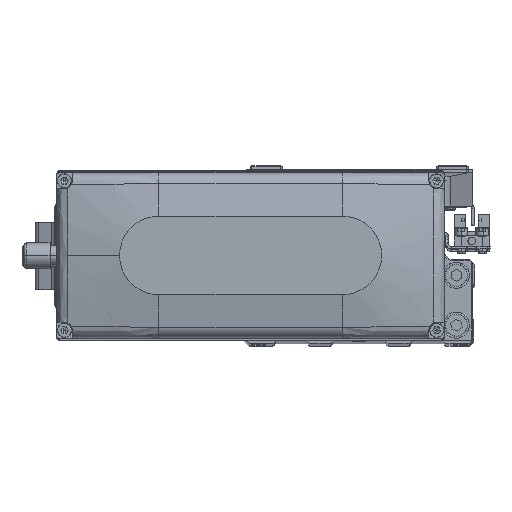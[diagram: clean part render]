
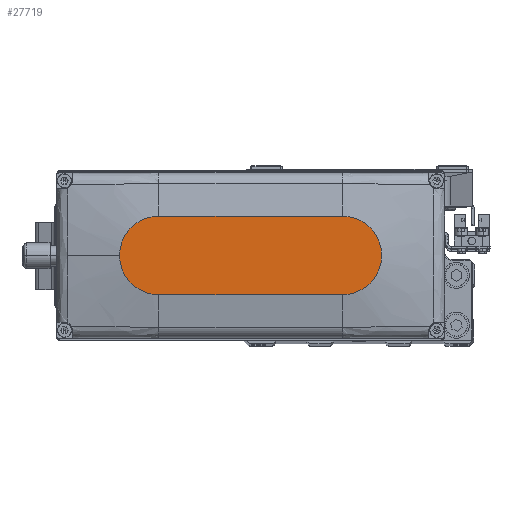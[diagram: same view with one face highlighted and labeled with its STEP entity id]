
A CAD part, top view. The second image highlights one B-rep face of the part: STEP entity #27719.
In plain terms, the highlighted planar face has unit normal (0, 0, 1).
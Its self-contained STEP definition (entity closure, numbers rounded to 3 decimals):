
#3534 = VERTEX_POINT ( 'NONE', #13024 ) ;
#4312 = DIRECTION ( 'NONE',  ( 1., 0., 0. ) ) ;
#4830 = VERTEX_POINT ( 'NONE', #45279 ) ;
#5311 = DIRECTION ( 'NONE',  ( 1., 0., 0. ) ) ;
#11512 = ORIENTED_EDGE ( 'NONE', *, *, #18071, .T. ) ;
#11966 = CARTESIAN_POINT ( 'NONE',  ( 35., 0., 35. ) ) ;
#11971 = DIRECTION ( 'NONE',  ( 0., 0., 1. ) ) ;
#12055 = ORIENTED_EDGE ( 'NONE', *, *, #19302, .T. ) ;
#12713 = LINE ( 'NONE', #27529, #43754 ) ;
#13024 = CARTESIAN_POINT ( 'NONE',  ( 35., 15., 35. ) ) ;
#14780 = DIRECTION ( 'NONE',  ( 0., 0., 1. ) ) ;
#15563 = AXIS2_PLACEMENT_3D ( 'NONE', #21094, #14780, #29594 ) ;
#15695 = EDGE_CURVE ( 'NONE', #34867, #4830, #39012, .T. ) ;
#18068 = AXIS2_PLACEMENT_3D ( 'NONE', #22777, #37570, #4312 ) ;
#18071 = EDGE_CURVE ( 'NONE', #27160, #22126, #18142, .T. ) ;
#18142 = CIRCLE ( 'NONE', #45295, 15. ) ;
#18423 = FACE_OUTER_BOUND ( 'NONE', #39060, .T. ) ;
#19302 = EDGE_CURVE ( 'NONE', #22126, #3534, #31182, .T. ) ;
#21094 = CARTESIAN_POINT ( 'NONE',  ( 0., 0., 35. ) ) ;
#22126 = VERTEX_POINT ( 'NONE', #46874 ) ;
#22777 = CARTESIAN_POINT ( 'NONE',  ( -35., 0., 35. ) ) ;
#23789 = LINE ( 'NONE', #38573, #42485 ) ;
#26193 = ORIENTED_EDGE ( 'NONE', *, *, #15695, .T. ) ;
#26772 = DIRECTION ( 'NONE',  ( 0., 0., 1. ) ) ;
#26779 = DIRECTION ( 'NONE',  ( 1., 0., 0. ) ) ;
#27160 = VERTEX_POINT ( 'NONE', #47645 ) ;
#27529 = CARTESIAN_POINT ( 'NONE',  ( -35., 15., 35. ) ) ;
#27719 = ADVANCED_FACE ( 'NONE', ( #18423 ), #33242, .T. ) ;
#29001 = CARTESIAN_POINT ( 'NONE',  ( -35., 15., 35. ) ) ;
#29594 = DIRECTION ( 'NONE',  ( 1., 0., 0. ) ) ;
#31182 = CIRCLE ( 'NONE', #37372, 15. ) ;
#31314 = ORIENTED_EDGE ( 'NONE', *, *, #47239, .T. ) ;
#33242 = PLANE ( 'NONE',  #15563 ) ;
#34867 = VERTEX_POINT ( 'NONE', #29001 ) ;
#35990 = ORIENTED_EDGE ( 'NONE', *, *, #43453, .T. ) ;
#37372 = AXIS2_PLACEMENT_3D ( 'NONE', #45251, #11971, #26779 ) ;
#37570 = DIRECTION ( 'NONE',  ( 0., 0., 1. ) ) ;
#38573 = CARTESIAN_POINT ( 'NONE',  ( -35., -15., 35. ) ) ;
#39012 = CIRCLE ( 'NONE', #18068, 15. ) ;
#39060 = EDGE_LOOP ( 'NONE', ( #35990, #26193, #31314, #11512, #12055 ) ) ;
#41590 = DIRECTION ( 'NONE',  ( 1., 0., 0. ) ) ;
#42348 = DIRECTION ( 'NONE',  ( -1., 0., 0. ) ) ;
#42485 = VECTOR ( 'NONE', #5311, 1000. ) ;
#43453 = EDGE_CURVE ( 'NONE', #3534, #34867, #12713, .T. ) ;
#43754 = VECTOR ( 'NONE', #42348, 1000. ) ;
#45251 = CARTESIAN_POINT ( 'NONE',  ( 35., 0., 35. ) ) ;
#45279 = CARTESIAN_POINT ( 'NONE',  ( -35., -15., 35. ) ) ;
#45295 = AXIS2_PLACEMENT_3D ( 'NONE', #11966, #26772, #41590 ) ;
#46874 = CARTESIAN_POINT ( 'NONE',  ( 50., 0., 35. ) ) ;
#47239 = EDGE_CURVE ( 'NONE', #4830, #27160, #23789, .T. ) ;
#47645 = CARTESIAN_POINT ( 'NONE',  ( 35., -15., 35. ) ) ;
